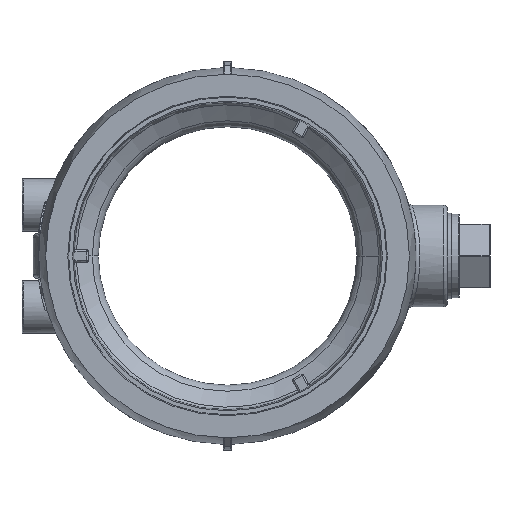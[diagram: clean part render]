
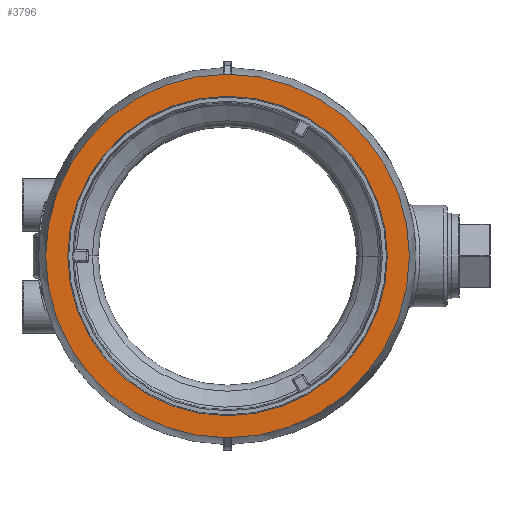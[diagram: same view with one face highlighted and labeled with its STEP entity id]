
A CAD part, left-side view. The second image highlights one B-rep face of the part: STEP entity #3796.
In plain terms, the highlighted planar face has unit normal (-1, 0, 0).
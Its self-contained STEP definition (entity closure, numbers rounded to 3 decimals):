
#3606 = EDGE_CURVE ( 'NONE', #3615, #3617, #34458, .T. ) ;
#3615 = VERTEX_POINT ( 'NONE', #34471 ) ;
#3617 = VERTEX_POINT ( 'NONE', #34488 ) ;
#3634 = EDGE_CURVE ( 'NONE', #3617, #3615, #34558, .T. ) ;
#3780 = ORIENTED_EDGE ( 'NONE', *, *, #3606, .T. ) ;
#3786 = ORIENTED_EDGE ( 'NONE', *, *, #3787, .F. ) ;
#3787 = EDGE_CURVE ( 'NONE', #21365, #35928, #35094, .T. ) ;
#3789 = ORIENTED_EDGE ( 'NONE', *, *, #22190, .F. ) ;
#3796 = ADVANCED_FACE ( 'NONE', ( #35088, #35039 ), #35087, .F. ) ;
#3807 = EDGE_LOOP ( 'NONE', ( #3780, #3844 ) ) ;
#3809 = EDGE_LOOP ( 'NONE', ( #3786, #3789 ) ) ;
#3844 = ORIENTED_EDGE ( 'NONE', *, *, #3634, .T. ) ;
#15709 = CARTESIAN_POINT ( 'NONE',  ( -39.747, 0., 39.27 ) ) ;
#15824 = DIRECTION ( 'NONE',  ( 0., 0., 1. ) ) ;
#15825 = DIRECTION ( 'NONE',  ( -1., 0., 0. ) ) ;
#15826 = CARTESIAN_POINT ( 'NONE',  ( -39.747, 0., 0. ) ) ;
#15827 = AXIS2_PLACEMENT_3D ( 'NONE', #15826, #15825, #15824 ) ;
#15828 = CIRCLE ( 'NONE', #15827, 39.27 ) ;
#20448 = CARTESIAN_POINT ( 'NONE',  ( -39.747, 0., -39.27 ) ) ;
#21365 = VERTEX_POINT ( 'NONE', #15709 ) ;
#22190 = EDGE_CURVE ( 'NONE', #35928, #21365, #15828, .T. ) ;
#34447 = DIRECTION ( 'NONE',  ( 0., 0., 1. ) ) ;
#34448 = DIRECTION ( 'NONE',  ( -1., 0., 0. ) ) ;
#34449 = CARTESIAN_POINT ( 'NONE',  ( -39.747, 0., 0. ) ) ;
#34451 = AXIS2_PLACEMENT_3D ( 'NONE', #34449, #34448, #34447 ) ;
#34458 = CIRCLE ( 'NONE', #34451, 44.688 ) ;
#34471 = CARTESIAN_POINT ( 'NONE',  ( -39.747, 0., -44.688 ) ) ;
#34488 = CARTESIAN_POINT ( 'NONE',  ( -39.747, 0., 44.688 ) ) ;
#34554 = DIRECTION ( 'NONE',  ( 0., 0., 1. ) ) ;
#34555 = DIRECTION ( 'NONE',  ( -1., 0., 0. ) ) ;
#34556 = CARTESIAN_POINT ( 'NONE',  ( -39.747, 0., 0. ) ) ;
#34557 = AXIS2_PLACEMENT_3D ( 'NONE', #34556, #34555, #34554 ) ;
#34558 = CIRCLE ( 'NONE', #34557, 44.688 ) ;
#35039 = FACE_OUTER_BOUND ( 'NONE', #3807, .T. ) ;
#35078 = AXIS2_PLACEMENT_3D ( 'NONE', #35124, #35123, #35122 ) ;
#35081 = DIRECTION ( 'NONE',  ( 0., 0., 1. ) ) ;
#35082 = DIRECTION ( 'NONE',  ( -1., 0., 0. ) ) ;
#35083 = CARTESIAN_POINT ( 'NONE',  ( -39.747, 0., 0. ) ) ;
#35084 = AXIS2_PLACEMENT_3D ( 'NONE', #35083, #35082, #35081 ) ;
#35087 = PLANE ( 'NONE',  #35078 ) ;
#35088 = FACE_BOUND ( 'NONE', #3809, .T. ) ;
#35094 = CIRCLE ( 'NONE', #35084, 39.27 ) ;
#35122 = DIRECTION ( 'NONE',  ( 0., 0., -1. ) ) ;
#35123 = DIRECTION ( 'NONE',  ( 1., 0., 0. ) ) ;
#35124 = CARTESIAN_POINT ( 'NONE',  ( -39.747, 39.27, 0. ) ) ;
#35928 = VERTEX_POINT ( 'NONE', #20448 ) ;
